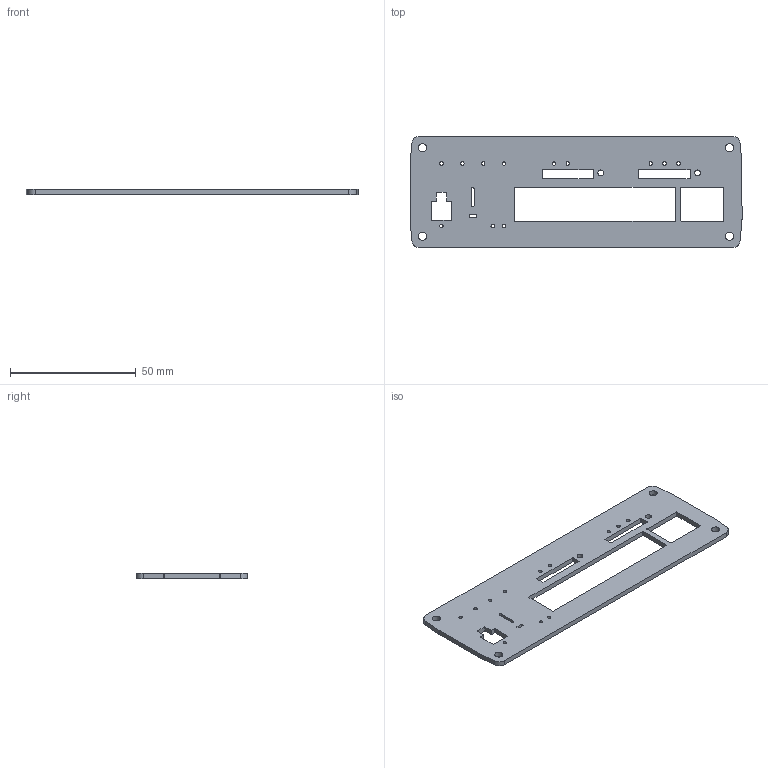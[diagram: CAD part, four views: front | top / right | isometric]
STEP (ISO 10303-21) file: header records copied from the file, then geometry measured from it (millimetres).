
FILE_DESCRIPTION (( 'STEP AP214' ), '1' );
FILE_NAME ('0637_RUTM60PFBK_01.STEP', '2025-07-18T10:22:36', ( '' ), ( '' ), 'SwSTEP 2.0', 'SolidWorks 2024', '' );
FILE_SCHEMA (( 'AUTOMOTIVE_DESIGN' ));
Length unit declared in the file: millimetre
Products named in the file (1): 0637_RUTM60PFBK_01
Bounding box: 132 x 44.2 x 2 mm (x, y, z)
Volume: 8818.8 mm3; surface area: 10474.3 mm2
Topology: 1 solids, 1 shells, 115 faces, 360 edges, 248 vertices
Faces by surface type: cylinder 74, plane 41
Entity records: 5494 total; most frequent: DIRECTION 752, CARTESIAN_POINT 724, ORIENTED_EDGE 720, EDGE_CURVE 360, AXIS2_PLACEMENT_3D 276, VERTEX_POINT 248, VECTOR 200, LINE 200
